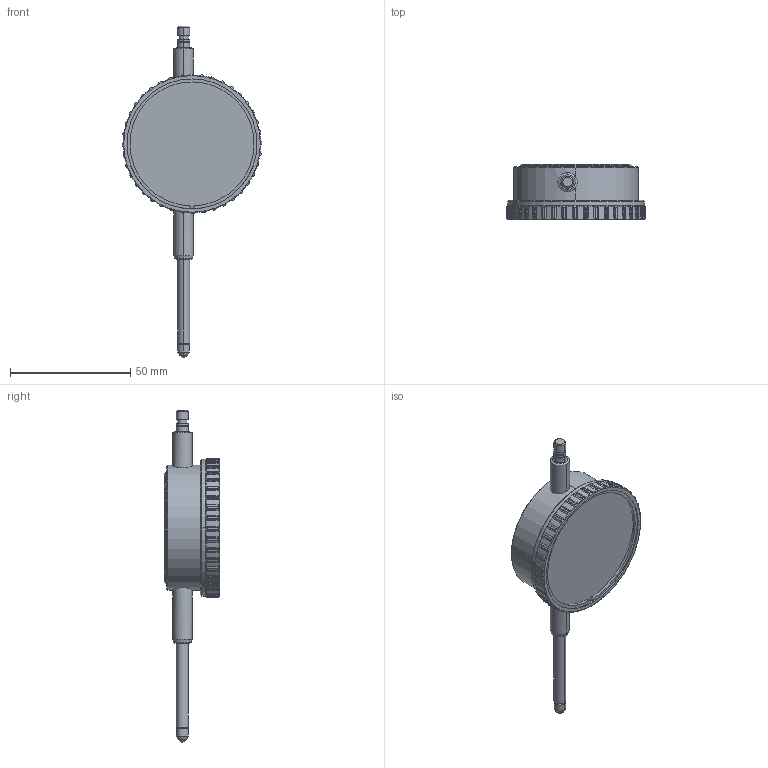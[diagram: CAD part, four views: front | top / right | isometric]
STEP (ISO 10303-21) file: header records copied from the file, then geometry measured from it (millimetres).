
FILE_DESCRIPTION(('STEP AP214'),'1');
FILE_NAME('M10c.STP','2016-07-20T08:18:15',(' '),(' '),'Spatial InterOp 3D',' ',' ');
FILE_SCHEMA(('automotive_design'));
Length unit declared in the file: millimetre
Products named in the file (1): 1
Bounding box: 58 x 23 x 137.99 mm (x, y, z)
Volume: 51049.1 mm3; surface area: 10990 mm2
Topology: 1 solids, 4 shells, 380 faces, 1044 edges, 688 vertices
Faces by surface type: cylinder 233, plane 118, cone 28, sphere 1
Entity records: 13611 total; most frequent: CARTESIAN_POINT 4515, ORIENTED_EDGE 2088, DIRECTION 1746, EDGE_CURVE 1044, AXIS2_PLACEMENT_3D 689, VERTEX_POINT 688, EDGE_LOOP 402, ADVANCED_FACE 380
